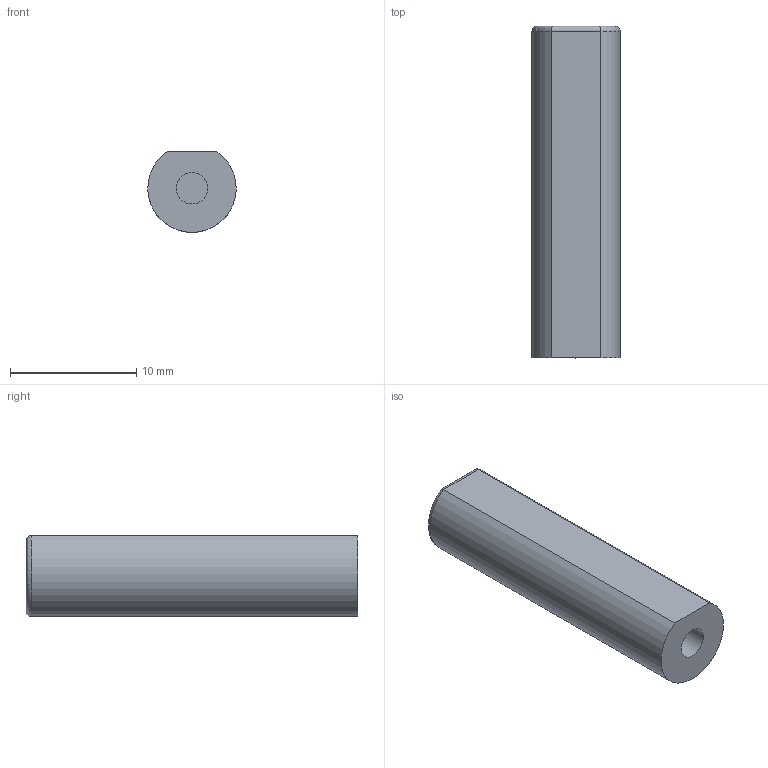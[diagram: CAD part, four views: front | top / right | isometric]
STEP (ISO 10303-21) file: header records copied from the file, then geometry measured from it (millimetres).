
FILE_DESCRIPTION(('Open CASCADE Model'),'2;1');
FILE_NAME('Open CASCADE Shape Model','2026-11-07T02:16:45',('Author'),( 'Open CASCADE'),'Open CASCADE STEP processor 8.0','build123d', 'Unknown');
FILE_SCHEMA(('AUTOMOTIVE_DESIGN { 1 0 10303 214 1 1 1 1 }'));
Length unit declared in the file: millimetre
Products named in the file (2): =>[0:1:1:2]; COMPOUND
Assembly tree (1 placements, depth 2):
  =>[0:1:1:2]
    COMPOUND
Bounding box: 6.99 x 26.28 x 6.4 mm (x, y, z)
Volume: 867.5 mm3; surface area: 784.7 mm2
Topology: 1 solids, 1 shells, 13 faces, 23 edges, 14 vertices
Faces by surface type: plane 6, cylinder 5, torus 2
Full cylindrical faces by diameter (mm): 2.5 x1
Entity records: 772 total; most frequent: CARTESIAN_POINT 284, DIRECTION 81, ORIENTED_EDGE 46, PCURVE 46, DEFINITIONAL_REPRESENTATION 46, LINE 31, VECTOR 31, B_SPLINE_CURVE_WITH_KNOTS 24
